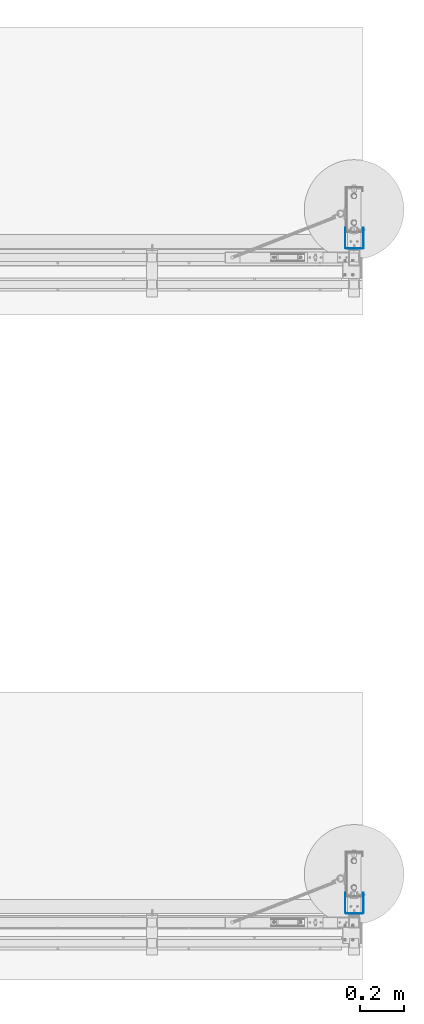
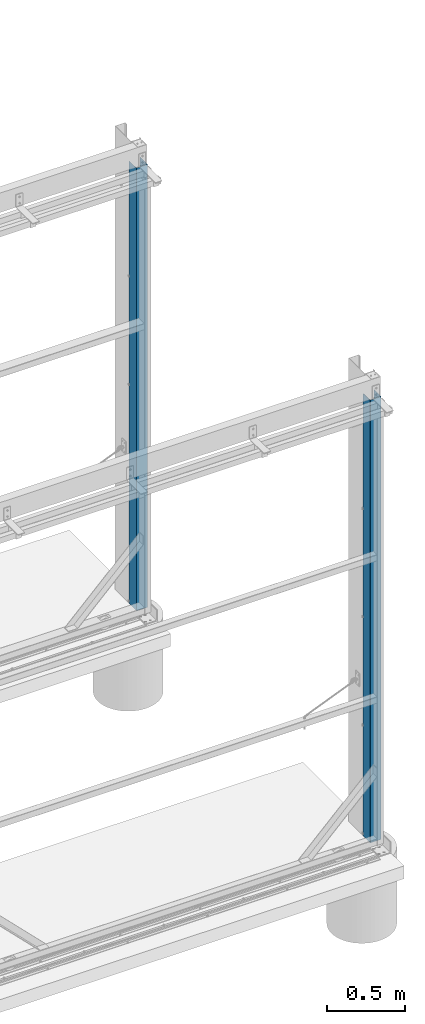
# One storey, part 79 of 91: 2 beams, 2 elements without a shape of their own.
"""IFC2X3 building model written with IfcOpenShell, lengths in millimetres."""

from ifc_helpers import new_model, si_unit, frame, origin_with_axes, place, context, subcontext, project, spatial, faceted_brep, material, type_object, element, aggregate, save


model = new_model("IFC2X3")

# Units and contexts
model_context = context("Model", 3, precision=1e-05, world=origin_with_axes())
body_context = subcontext(model_context, "Body", "Model", "MODEL_VIEW")
ifc_project = project(units=[si_unit("LENGTHUNIT", "METRE", prefix="MILLI"), si_unit("AREAUNIT", "SQUARE_METRE"), si_unit("VOLUMEUNIT", "CUBIC_METRE"), si_unit("MASSUNIT", "GRAM", prefix="KILO"), si_unit("TIMEUNIT", "SECOND"), si_unit("PLANEANGLEUNIT", "RADIAN"), si_unit("SOLIDANGLEUNIT", "STERADIAN"), si_unit("THERMODYNAMICTEMPERATUREUNIT", "DEGREE_CELSIUS"), si_unit("LUMINOUSINTENSITYUNIT", "LUMEN")], contexts=[model_context])

# Site, building, storey
site_placement = place(None, origin_with_axes())
site = spatial("IfcSite", under=ifc_project, at=site_placement, Name="Undefined", CompositionType="ELEMENT")
building_placement = place(site_placement, origin_with_axes())
building = spatial("IfcBuilding", under=site, at=building_placement, Name="Undefined", CompositionType="ELEMENT")
storey_placement = place(building_placement, origin_with_axes())
storey = spatial("IfcBuildingStorey", under=building, at=storey_placement, Name="Undefined", CompositionType="ELEMENT", Elevation=0.0)

# Assembly, beam
assembly_1_placement = place(storey_placement, origin_with_axes())
assembly_1 = element("IfcElementAssembly", 1, at=assembly_1_placement, inside=storey, Name="FOLDED CHANNEL", AssemblyPlace="NOTDEFINED", PredefinedType="RIGID_FRAME")
ifc_material = material(Name="STEEL/250")
beam_type = type_object("IfcBeamType", Name="PLT1*263.6", PredefinedType="NOTDEFINED")
beam_1_placement = place(assembly_1_placement, frame((-107722.84, 87846.15, 1703.0), z_axis=(0.0, 0.0, 1.0), x_axis=(0.0, -1.0, 0.0)))
beam_1 = element("IfcBeam", 2, at=beam_1_placement, type_object=beam_type, material=ifc_material, Name="FOLDED CHANNEL", ObjectType="PLT1*263.6", context=body_context, shape_type="Brep", body=[
    faceted_brep([(0.0, 0.5, -1735.0), (0.0, 0.5, 1735.0), (89.0, 0.5, 1735.0), (89.0, 0.500000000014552, -1735.0), (0.0, -0.5, 1735.0), (0.0, -0.5, -1735.0), (89.0, -0.5, -1735.0), (89.0, -0.5, 1735.0), (91.0000000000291, 1.03589838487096, 1735.0), (91.0000000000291, 1.03589838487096, -1735.0), (91.5000000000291, 0.16987298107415, -1735.0), (91.5000000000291, 0.16987298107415, 1735.0), (93.3301270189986, 2.0, -1735.0), (93.3301270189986, 2.0, 1735.0), (92.4641016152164, 2.50000000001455, 1735.0), (92.4641016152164, 2.50000000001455, -1735.0), (94.0000000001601, 4.50000000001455, -1735.0), (94.0000000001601, 4.50000000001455, 1735.0), (93.0000000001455, 4.50000000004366, 1735.0), (93.0, 4.5, -1735.0), (93.0, 77.5, 1735.0), (93.0, 77.5, -1735.0), (94.0, 77.5, -1735.0), (94.0, 77.5, 1735.0), (92.4641016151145, 79.5000000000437, 1735.0), (92.4641016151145, 79.5000000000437, -1735.0), (93.3301270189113, 80.0000000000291, -1735.0), (93.3301270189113, 80.0000000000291, 1735.0), (91.5, 81.8301270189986, -1735.0), (91.5, 81.8301270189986, 1735.0), (90.9999999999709, 80.9641016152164, 1735.0), (90.9999999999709, 80.9641016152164, -1735.0), (89.0, 82.5000000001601, -1735.0), (89.0, 82.5000000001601, 1735.0), (88.9999999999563, 81.5000000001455, 1735.0), (89.0, 81.5, -1735.0), (0.0, 81.5, 1735.0), (0.0, 81.5, -1735.0), (0.0, 82.5, 1735.0), (0.0, 82.5, -1735.0)], [[[0, 1, 2, 3]], [[4, 5, 6, 7]], [[5, 4, 1, 0]], [[3, 2, 8, 9]], [[7, 6, 10, 11]], [[10, 12, 13, 11]], [[8, 14, 15, 9]], [[12, 16, 17, 13]], [[14, 18, 19, 15]], [[19, 18, 20, 21]], [[17, 16, 22, 23]], [[21, 20, 24, 25]], [[23, 22, 26, 27]], [[26, 28, 29, 27]], [[24, 30, 31, 25]], [[28, 32, 33, 29]], [[30, 34, 35, 31]], [[35, 34, 36, 37]], [[34, 30, 24, 20, 18, 14, 8, 2, 1, 4, 7, 11, 13, 17, 23, 27, 29, 33, 38, 36]], [[33, 32, 39, 38]], [[32, 28, 26, 22, 16, 12, 10, 6, 5, 0, 3, 9, 15, 19, 21, 25, 31, 35, 37, 39]], [[38, 39, 37, 36]]]),
])
aggregate(assembly_1, [beam_1])

assembly_2_placement = place(storey_placement, origin_with_axes())
assembly_2 = element("IfcElementAssembly", 3, at=assembly_2_placement, inside=storey, Name="FOLDED CHANNEL", AssemblyPlace="NOTDEFINED", PredefinedType="RIGID_FRAME")
beam_2_placement = place(assembly_2_placement, frame((-107722.84, 84846.15, 1703.0), z_axis=(0.0, 0.0, 1.0), x_axis=(0.0, -1.0, 0.0)))
beam_2 = element("IfcBeam", 4, at=beam_2_placement, type_object=beam_type, material=ifc_material, Name="FOLDED CHANNEL", ObjectType="PLT1*263.6", context=body_context, shape_type="Brep", body=[
    faceted_brep([(0.0, 0.5, -1735.0), (0.0, 0.5, 1735.0), (89.0, 0.5, 1735.0), (89.0, 0.500000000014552, -1735.0), (0.0, -0.5, 1735.0), (0.0, -0.5, -1735.0), (89.0, -0.5, -1735.0), (89.0, -0.5, 1735.0), (91.0000000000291, 1.03589838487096, 1735.0), (91.0000000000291, 1.03589838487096, -1735.0), (91.5000000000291, 0.16987298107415, -1735.0), (91.5000000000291, 0.16987298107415, 1735.0), (93.3301270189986, 2.0, -1735.0), (93.3301270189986, 2.0, 1735.0), (92.4641016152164, 2.50000000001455, 1735.0), (92.4641016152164, 2.50000000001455, -1735.0), (94.0000000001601, 4.50000000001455, -1735.0), (94.0000000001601, 4.50000000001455, 1735.0), (93.0000000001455, 4.50000000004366, 1735.0), (93.0, 4.5, -1735.0), (93.0, 77.5, 1735.0), (93.0, 77.5, -1735.0), (94.0, 77.5, -1735.0), (94.0, 77.5, 1735.0), (92.4641016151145, 79.5000000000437, 1735.0), (92.4641016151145, 79.5000000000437, -1735.0), (93.3301270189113, 80.0000000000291, -1735.0), (93.3301270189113, 80.0000000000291, 1735.0), (91.5, 81.8301270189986, -1735.0), (91.5, 81.8301270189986, 1735.0), (90.9999999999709, 80.9641016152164, 1735.0), (90.9999999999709, 80.9641016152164, -1735.0), (89.0, 82.5000000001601, -1735.0), (89.0, 82.5000000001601, 1735.0), (88.9999999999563, 81.5000000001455, 1735.0), (89.0, 81.5, -1735.0), (0.0, 81.5, 1735.0), (0.0, 81.5, -1735.0), (0.0, 82.5, 1735.0), (0.0, 82.5, -1735.0)], [[[0, 1, 2, 3]], [[4, 5, 6, 7]], [[5, 4, 1, 0]], [[3, 2, 8, 9]], [[7, 6, 10, 11]], [[10, 12, 13, 11]], [[8, 14, 15, 9]], [[12, 16, 17, 13]], [[14, 18, 19, 15]], [[19, 18, 20, 21]], [[17, 16, 22, 23]], [[21, 20, 24, 25]], [[23, 22, 26, 27]], [[26, 28, 29, 27]], [[24, 30, 31, 25]], [[28, 32, 33, 29]], [[30, 34, 35, 31]], [[35, 34, 36, 37]], [[34, 30, 24, 20, 18, 14, 8, 2, 1, 4, 7, 11, 13, 17, 23, 27, 29, 33, 38, 36]], [[33, 32, 39, 38]], [[32, 28, 26, 22, 16, 12, 10, 6, 5, 0, 3, 9, 15, 19, 21, 25, 31, 35, 37, 39]], [[38, 39, 37, 36]]]),
])
aggregate(assembly_2, [beam_2])

save(model, "model.ifc")
